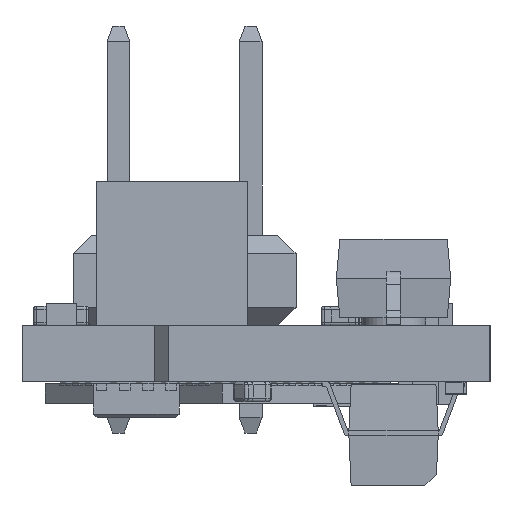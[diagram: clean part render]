
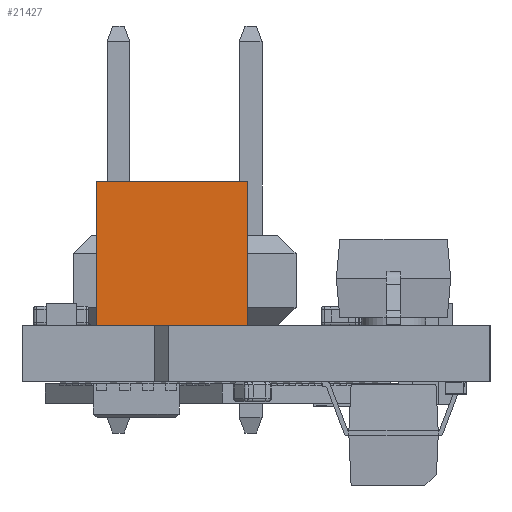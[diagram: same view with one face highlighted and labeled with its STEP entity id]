
A CAD part, left-side view. The second image highlights one B-rep face of the part: STEP entity #21427.
In plain terms, the highlighted planar face has unit normal (-1, 0, 0) as drawn and (1, 0, 0) by its records, which use the part's own axes.
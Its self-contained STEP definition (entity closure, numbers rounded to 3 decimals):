
#1444=PLANE('',#23405);
#2542=FACE_OUTER_BOUND('',#3969,.T.);
#3969=EDGE_LOOP('',(#17177,#17178,#17179,#17180));
#5654=LINE('',#34104,#7741);
#5655=LINE('',#34107,#7742);
#5656=LINE('',#34109,#7743);
#5657=LINE('',#34110,#7744);
#7741=VECTOR('',#27288,10.);
#7742=VECTOR('',#27291,10.);
#7743=VECTOR('',#27292,10.);
#7744=VECTOR('',#27293,10.);
#10296=VERTEX_POINT('',#34100);
#10297=VERTEX_POINT('',#34102);
#10298=VERTEX_POINT('',#34106);
#10299=VERTEX_POINT('',#34108);
#12687=EDGE_CURVE('',#10296,#10297,#5654,.T.);
#12688=EDGE_CURVE('',#10296,#10298,#5655,.T.);
#12689=EDGE_CURVE('',#10299,#10297,#5656,.T.);
#12690=EDGE_CURVE('',#10298,#10299,#5657,.T.);
#17177=ORIENTED_EDGE('',*,*,#12688,.F.);
#17178=ORIENTED_EDGE('',*,*,#12687,.T.);
#17179=ORIENTED_EDGE('',*,*,#12689,.F.);
#17180=ORIENTED_EDGE('',*,*,#12690,.F.);
#21427=ADVANCED_FACE('',(#2542),#1444,.T.);
#23405=AXIS2_PLACEMENT_3D('',#34105,#27289,#27290);
#27288=DIRECTION('',(0.,0.,1.));
#27289=DIRECTION('center_axis',(1.,0.,0.));
#27290=DIRECTION('ref_axis',(0.,1.,0.));
#27291=DIRECTION('',(0.,-1.,0.));
#27292=DIRECTION('',(0.,1.,0.));
#27293=DIRECTION('',(0.,0.,1.));
#34100=CARTESIAN_POINT('',(4.125,2.125,0.));
#34102=CARTESIAN_POINT('',(4.125,2.125,4.05));
#34104=CARTESIAN_POINT('',(4.125,2.125,0.));
#34105=CARTESIAN_POINT('Origin',(4.125,-2.125,0.));
#34106=CARTESIAN_POINT('',(4.125,-2.125,0.));
#34107=CARTESIAN_POINT('',(4.125,2.125,0.));
#34108=CARTESIAN_POINT('',(4.125,-2.125,4.05));
#34109=CARTESIAN_POINT('',(4.125,2.125,4.05));
#34110=CARTESIAN_POINT('',(4.125,-2.125,0.));
